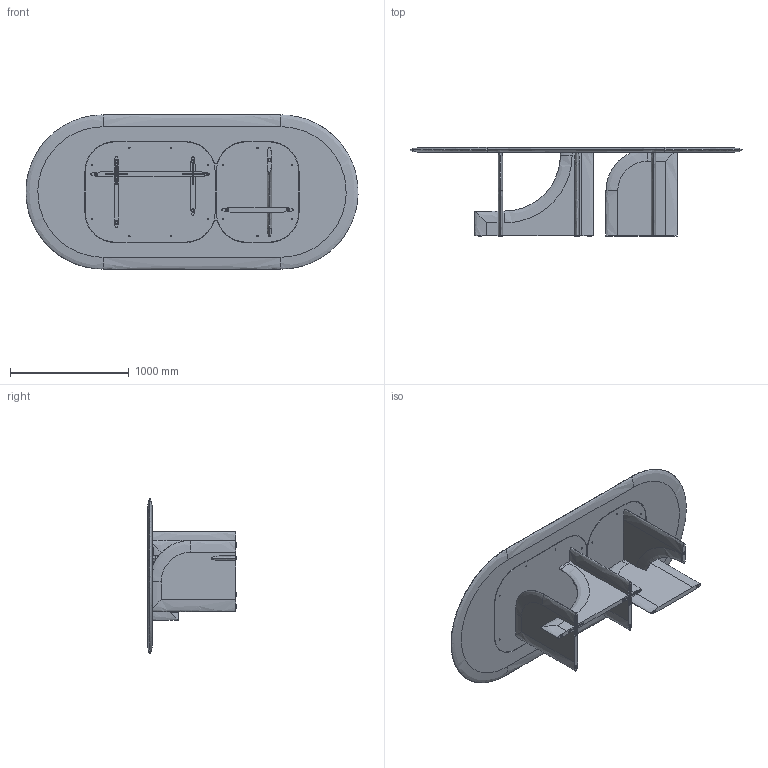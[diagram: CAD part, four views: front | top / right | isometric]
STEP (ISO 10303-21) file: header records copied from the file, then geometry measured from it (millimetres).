
FILE_DESCRIPTION (( 'STEP AP214' ), '1' );
FILE_NAME ('SELCE T 2800 x 1300.STEP', '2024-05-14T15:55:33', ( '' ), ( '' ), 'SwSTEP 2.0', 'SolidWorks 2023', '' );
FILE_SCHEMA (( 'AUTOMOTIVE_DESIGN' ));
Length unit declared in the file: millimetre
Products named in the file (8): TOP_2800 x 1300; GAMBE e PIASTRA_PIASTRA B; SELCE T 2800 x 1300; GAMBE e PIASTRA_PIASTRA A; SCIVOLO_IPEA_20PTPD007N; CROCE FERRO; GAMBE e PIASTRA_GAMBA B; GAMBE e PIASTRA_GAMBA A
Assembly tree (18 placements, depth 2):
  SELCE T 2800 x 1300
    TOP_2800 x 1300
    GAMBE e PIASTRA_GAMBA A
    GAMBE e PIASTRA_GAMBA B
    GAMBE e PIASTRA_PIASTRA A
    GAMBE e PIASTRA_PIASTRA B
    CROCE FERRO  x4
    SCIVOLO_IPEA_20PTPD007N  x9
Bounding box: 2799.27 x 749 x 1300 mm (x, y, z)
Volume: 189865310.5 mm3; surface area: 13580469.9 mm2
Topology: 24 solids, 24 shells, 944 faces, 2411 edges, 1461 vertices
Faces by surface type: cylinder 380, plane 261, cone 212, bspline 91
Entity records: 25182 total; most frequent: CARTESIAN_POINT 8032, DIRECTION 3520, ORIENTED_EDGE 3418, EDGE_CURVE 1709, AXIS2_PLACEMENT_3D 1328, VERTEX_POINT 1093, EDGE_LOOP 908, VECTOR 864
